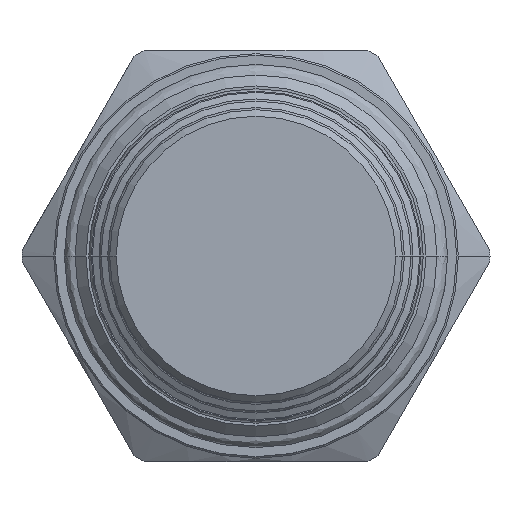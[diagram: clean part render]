
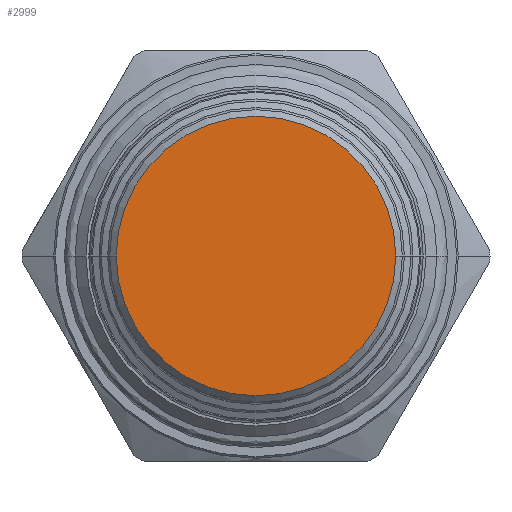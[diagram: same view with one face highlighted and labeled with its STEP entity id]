
A CAD part, front view. The second image highlights one B-rep face of the part: STEP entity #2999.
In plain terms, the highlighted planar face has unit normal (0, -1, 0).
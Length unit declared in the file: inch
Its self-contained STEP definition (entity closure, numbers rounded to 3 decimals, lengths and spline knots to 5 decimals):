
#316=CARTESIAN_POINT('',(0.,-4.785,0.));
#317=DIRECTION('',(0.,1.,0.));
#318=DIRECTION('',(-1.,0.,0.));
#319=AXIS2_PLACEMENT_3D('',#316,#317,#318);
#326=CARTESIAN_POINT('',(0.,-4.785,0.));
#327=DIRECTION('',(0.,-1.,0.));
#328=DIRECTION('',(-1.,0.,0.));
#329=AXIS2_PLACEMENT_3D('',#326,#327,#328);
#2224=CARTESIAN_POINT('',(-0.6375,-4.785,0.));
#2225=CARTESIAN_POINT('',(0.6375,-4.785,0.));
#2226=VERTEX_POINT('',#2224);
#2227=VERTEX_POINT('',#2225);
#2989=CARTESIAN_POINT('',(0.,-4.785,0.));
#2990=DIRECTION('',(0.,1.,0.));
#2991=DIRECTION('',(1.,0.,0.));
#2992=AXIS2_PLACEMENT_3D('',#2989,#2990,#2991);
#2993=PLANE('',#2992);
#2995=ORIENTED_EDGE('',*,*,#2994,.F.);
#2996=ORIENTED_EDGE('',*,*,#2979,.T.);
#2997=EDGE_LOOP('',(#2995,#2996));
#2998=FACE_OUTER_BOUND('',#2997,.F.);
#2999=ADVANCED_FACE('',(#2998),#2993,.F.);
#320=CIRCLE('',#319,0.6375);
#330=CIRCLE('',#329,0.6375);
#2979=EDGE_CURVE('',#2226,#2227,#320,.T.);
#2994=EDGE_CURVE('',#2226,#2227,#330,.T.);
